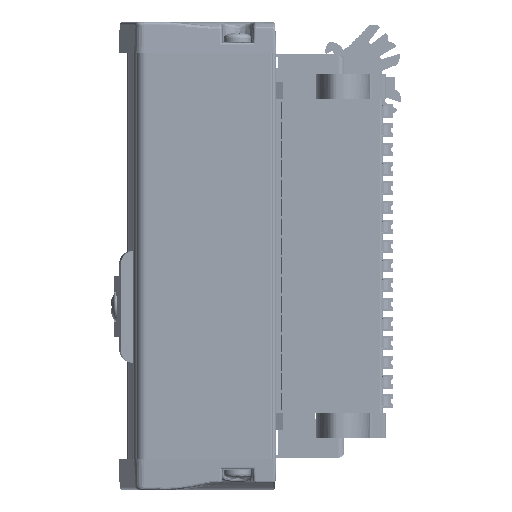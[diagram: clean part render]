
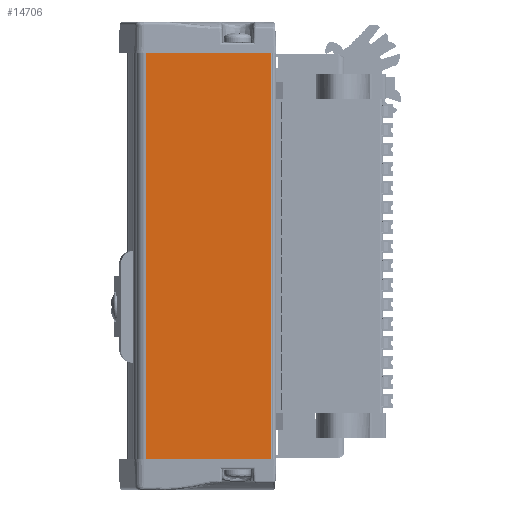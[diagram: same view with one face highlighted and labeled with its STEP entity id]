
A CAD part, front view. The second image highlights one B-rep face of the part: STEP entity #14706.
In plain terms, the highlighted planar face has unit normal (0, -1, 0).
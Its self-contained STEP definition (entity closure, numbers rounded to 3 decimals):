
#1950 = CARTESIAN_POINT ( 'NONE',  ( 13.675, -52.5, -56.25 ) ) ;
#14706 = ADVANCED_FACE ( 'NONE', ( #365331 ), #19404, .T. ) ;
#19404 = PLANE ( 'NONE',  #343295 ) ;
#28512 = LINE ( 'NONE', #152541, #258943 ) ;
#53087 = CARTESIAN_POINT ( 'NONE',  ( 13.675, -52.5, -126.25 ) ) ;
#64587 = VECTOR ( 'NONE', #96399, 1000. ) ;
#92276 = ORIENTED_EDGE ( 'NONE', *, *, #248286, .T. ) ;
#96399 = DIRECTION ( 'NONE',  ( -1., 0., 0. ) ) ;
#101325 = CARTESIAN_POINT ( 'NONE',  ( -11.031, -52.5, -56.25 ) ) ;
#115601 = VECTOR ( 'NONE', #210209, 1000. ) ;
#117385 = DIRECTION ( 'NONE',  ( 0., 0., 1. ) ) ;
#127149 = CARTESIAN_POINT ( 'NONE',  ( -11.031, -52.5, -136.25 ) ) ;
#143818 = LINE ( 'NONE', #53087, #217426 ) ;
#146440 = VERTEX_POINT ( 'NONE', #127149 ) ;
#152541 = CARTESIAN_POINT ( 'NONE',  ( -11.031, -52.5, -126.25 ) ) ;
#164790 = EDGE_LOOP ( 'NONE', ( #183542, #92276, #372089, #290997 ) ) ;
#167375 = EDGE_CURVE ( 'NONE', #386213, #243875, #388189, .T. ) ;
#171099 = EDGE_CURVE ( 'NONE', #243875, #146440, #28512, .T. ) ;
#176864 = CARTESIAN_POINT ( 'NONE',  ( 13.675, -52.5, -56.25 ) ) ;
#176965 = DIRECTION ( 'NONE',  ( 0., -1., 0. ) ) ;
#177396 = CARTESIAN_POINT ( 'NONE',  ( -5.494, -52.5, -136.25 ) ) ;
#183542 = ORIENTED_EDGE ( 'NONE', *, *, #196726, .T. ) ;
#184123 = DIRECTION ( 'NONE',  ( 0., 0., -1. ) ) ;
#196726 = EDGE_CURVE ( 'NONE', #146440, #260240, #282489, .T. ) ;
#210209 = DIRECTION ( 'NONE',  ( 1., 0., 0. ) ) ;
#217426 = VECTOR ( 'NONE', #117385, 1000. ) ;
#243875 = VERTEX_POINT ( 'NONE', #101325 ) ;
#248286 = EDGE_CURVE ( 'NONE', #260240, #386213, #143818, .T. ) ;
#258943 = VECTOR ( 'NONE', #184123, 1000. ) ;
#260240 = VERTEX_POINT ( 'NONE', #348567 ) ;
#282489 = LINE ( 'NONE', #177396, #115601 ) ;
#290997 = ORIENTED_EDGE ( 'NONE', *, *, #171099, .T. ) ;
#343295 = AXIS2_PLACEMENT_3D ( 'NONE', #364748, #176965, #396100 ) ;
#348567 = CARTESIAN_POINT ( 'NONE',  ( 13.675, -52.5, -136.25 ) ) ;
#364748 = CARTESIAN_POINT ( 'NONE',  ( 13.675, -52.5, -126.25 ) ) ;
#365331 = FACE_OUTER_BOUND ( 'NONE', #164790, .T. ) ;
#372089 = ORIENTED_EDGE ( 'NONE', *, *, #167375, .T. ) ;
#386213 = VERTEX_POINT ( 'NONE', #176864 ) ;
#388189 = LINE ( 'NONE', #1950, #64587 ) ;
#396100 = DIRECTION ( 'NONE',  ( 0., 0., -1. ) ) ;
